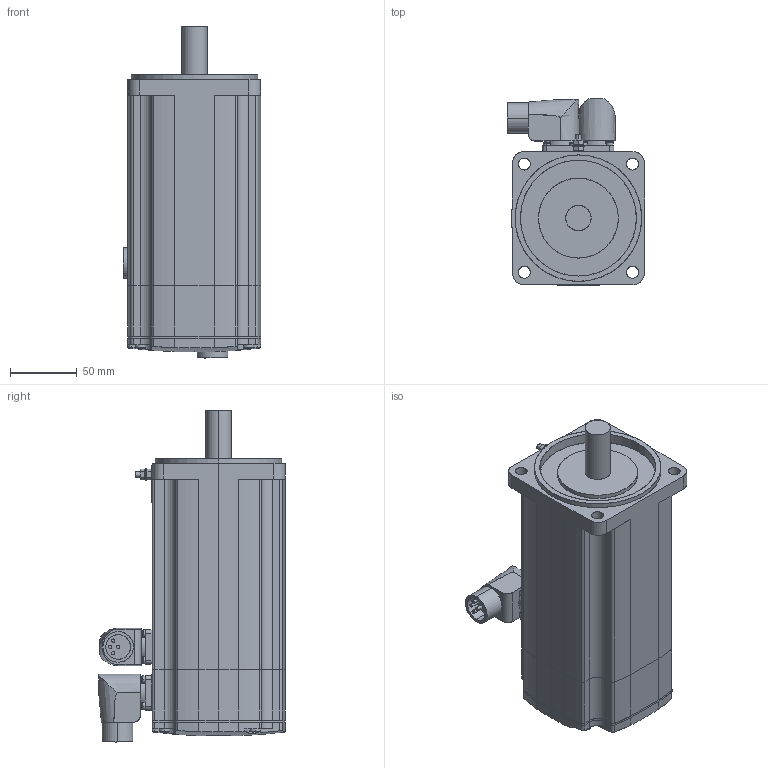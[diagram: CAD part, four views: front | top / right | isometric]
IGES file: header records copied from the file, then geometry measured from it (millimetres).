
Start section: SolidWorks IGES file using analytic representation for surfaces
Global section: file name: C:\PDM\SW-SAP\AA-IGES\SH31002x0xA2100.IGS; native system: SolidWorks 2010; preprocessor: SolidWorks 2010; author: SESA21951; date: 131129.100658; units: millimetre
Bounding box: 103.65 x 139.9 x 249.45 mm (x, y, z)
Surface area: 170314.5 mm2 (no closed solid volume)
Topology: 0 solids, 0 shells, 434 faces, 6446 edges, 6446 vertices
Faces by surface type: revolution 227, bspline 207
